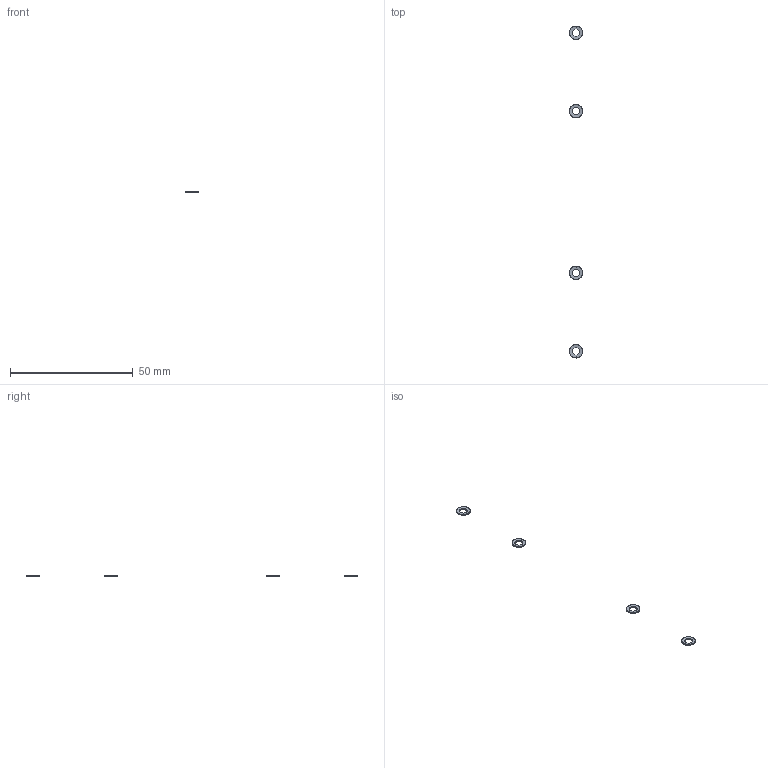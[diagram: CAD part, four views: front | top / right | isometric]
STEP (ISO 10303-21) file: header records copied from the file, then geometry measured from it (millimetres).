
FILE_DESCRIPTION(/* description */ (''),/* implementation_level */ '2;1');
FILE_NAME(/* name */ '9.electronics#9.2#GTS3',/* time_stamp */ '2014-12-01T20:18:45+01:00',/* author */ (''),/* organization */ (''),/* preprocessor_version */ 'ST-DEVELOPER v14',/* originating_system */ '',/* authorisation */ '');
FILE_SCHEMA (('AUTOMOTIVE_DESIGN'));
Length unit declared in the file: millimetre
Products named in the file (2): Document; washer Schnorr-like, lock, M3
Assembly tree (4 placements, depth 2):
  Document
    washer Schnorr-like, lock, M3  x4
Bounding box: 5.49 x 135.5 x 0.6 mm (x, y, z)
Surface area: 176.1 mm2 (no closed solid volume)
Topology: 0 solids, 32 shells, 32 faces, 128 edges, 128 vertices
Faces by surface type: bspline 32
Entity records: 779 total; most frequent: CARTESIAN_POINT 359, B_SPLINE_CURVE_WITH_KNOTS 48, ORIENTED_EDGE 32, PCURVE 32, DEFINITIONAL_REPRESENTATION 32, SURFACE_CURVE 32, EDGE_CURVE 32, VERTEX_POINT 32
